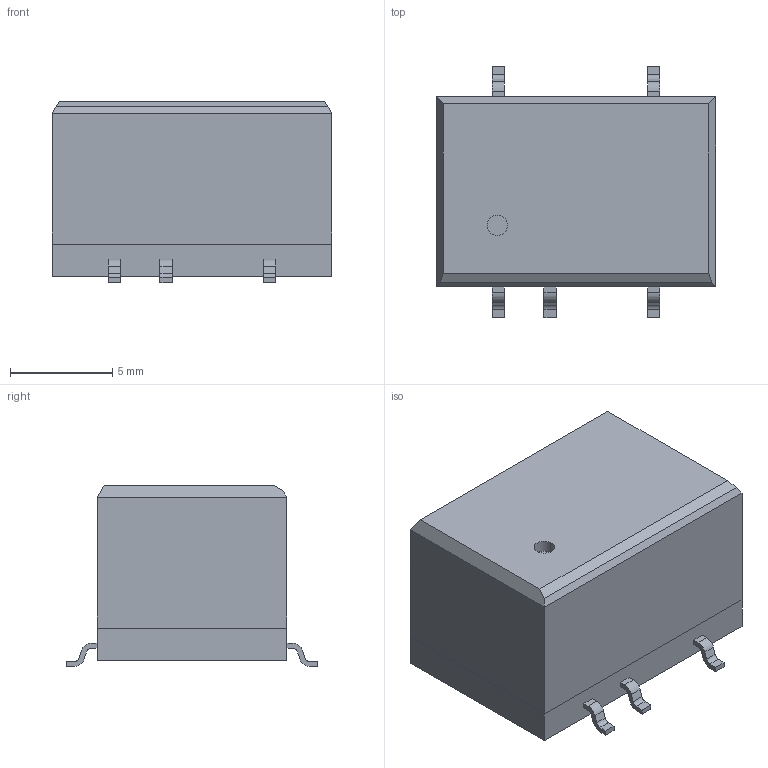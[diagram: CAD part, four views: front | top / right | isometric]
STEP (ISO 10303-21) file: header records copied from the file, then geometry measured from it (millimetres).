
FILE_DESCRIPTION(/* description */ (''),/* implementation_level */ '2;1');
FILE_NAME(/* name */ 'C:\Users\Calliope\Desktop\TES 2H(Single Output).stp',/* time_stamp */ '2021-08-03T15:33:42+08:00',/* author */ ('Calliope'),/* organization */ (''),/* preprocessor_version */ 'ST-DEVELOPER v16.1',/* originating_system */ 'Autodesk Inventor 2016',/* authorisation */ '');
FILE_SCHEMA (('AUTOMOTIVE_DESIGN { 1 0 10303 214 3 1 1 }'));
Length unit declared in the file: millimetre
Products named in the file (1): TES 2H(Single Output)
Bounding box: 13.7 x 12.3 x 8.9 mm (x, y, z)
Volume: 675.9 mm3; surface area: 1258.6 mm2
Topology: 1 solids, 1 shells, 134 faces, 346 edges, 227 vertices
Faces by surface type: plane 112, cylinder 22
Full cylindrical faces by diameter (mm): 1 x2
Entity records: 4173 total; most frequent: CARTESIAN_POINT 704, ORIENTED_EDGE 686, DIRECTION 657, EDGE_CURVE 343, LINE 299, VECTOR 299, VERTEX_POINT 226, AXIS2_PLACEMENT_3D 179
